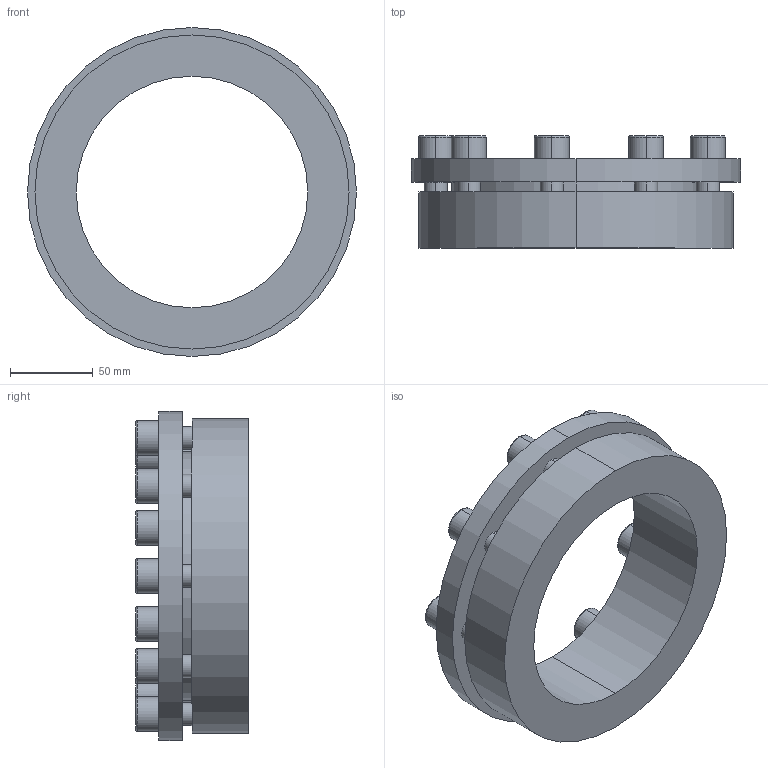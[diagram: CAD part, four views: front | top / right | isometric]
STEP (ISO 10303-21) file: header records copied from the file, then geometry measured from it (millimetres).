
FILE_DESCRIPTION (( 'STEP AP203' ), '1' );
FILE_NAME ('PL-H6 140-190.STEP', '2021-10-23T01:39:07', ( '' ), ( '' ), 'SwSTEP 2.0', 'SolidWorks 2018', '' );
FILE_SCHEMA (( 'CONFIG_CONTROL_DESIGN' ));
Length unit declared in the file: millimetre
Products named in the file (1): PL-H6 140-190
Bounding box: 199 x 68 x 199 mm (x, y, z)
Volume: 718169.6 mm3; surface area: 118682.2 mm2
Topology: 1 solids, 1 shells, 138 faces, 330 edges, 214 vertices
Faces by surface type: plane 76, cylinder 44, torus 18
Entity records: 4131 total; most frequent: DIRECTION 732, CARTESIAN_POINT 683, ORIENTED_EDGE 660, EDGE_CURVE 330, AXIS2_PLACEMENT_3D 263, VERTEX_POINT 214, VECTOR 206, LINE 206
